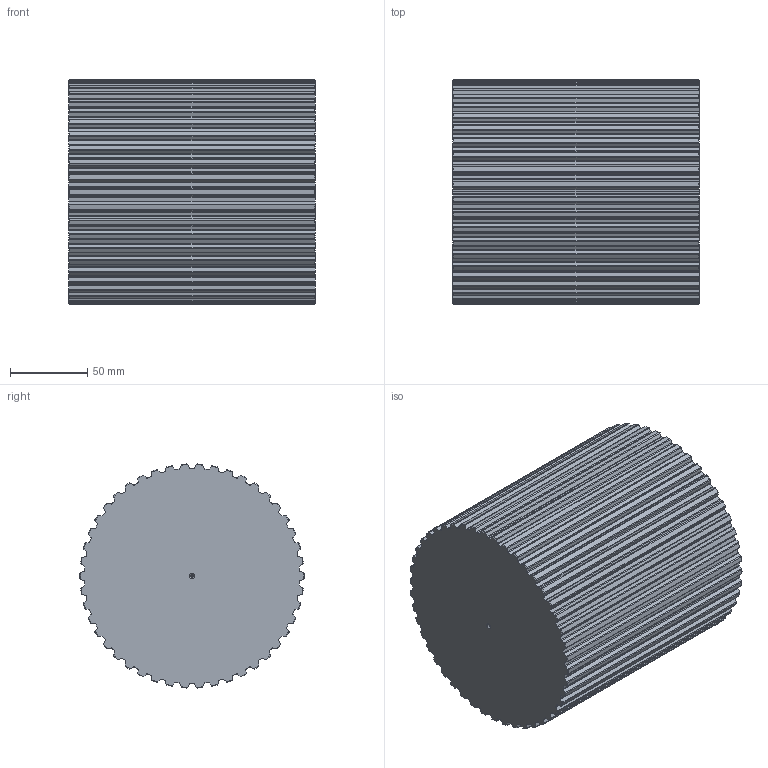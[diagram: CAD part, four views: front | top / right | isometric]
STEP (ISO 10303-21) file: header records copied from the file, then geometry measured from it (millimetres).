
FILE_DESCRIPTION(('STEP AP203'),'1');
FILE_NAME('barat_46.stp','2022-04-12T09:24:35',('TraceParts'),('TraceParts S.A.'),'Spatial InterOp 3D',' ',' ');
FILE_SCHEMA(('CONFIG_CONTROL_DESIGN'));
Length unit declared in the file: millimetre
Products named in the file (1): 1
Bounding box: 160 x 145.42 x 145.25 mm (x, y, z)
Volume: 2558086.4 mm3; surface area: 127283.5 mm2
Topology: 1 solids, 1 shells, 480 faces, 1426 edges, 946 vertices
Faces by surface type: cylinder 282, cone 104, plane 94
Entity records: 17330 total; most frequent: CARTESIAN_POINT 4873, ORIENTED_EDGE 2844, DIRECTION 2500, EDGE_CURVE 1422, AXIS2_PLACEMENT_3D 965, VERTEX_POINT 946, LINE 570, VECTOR 570
